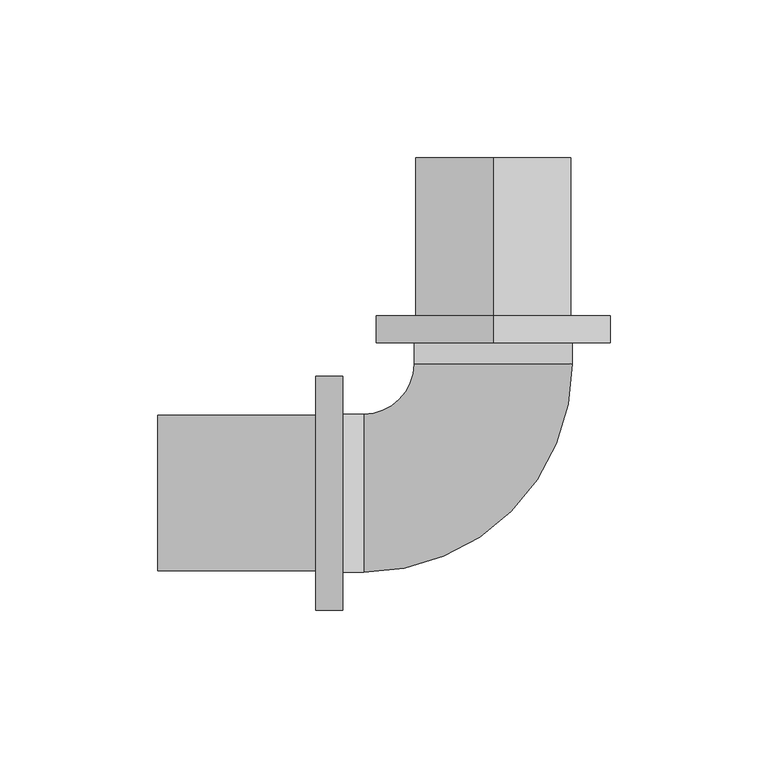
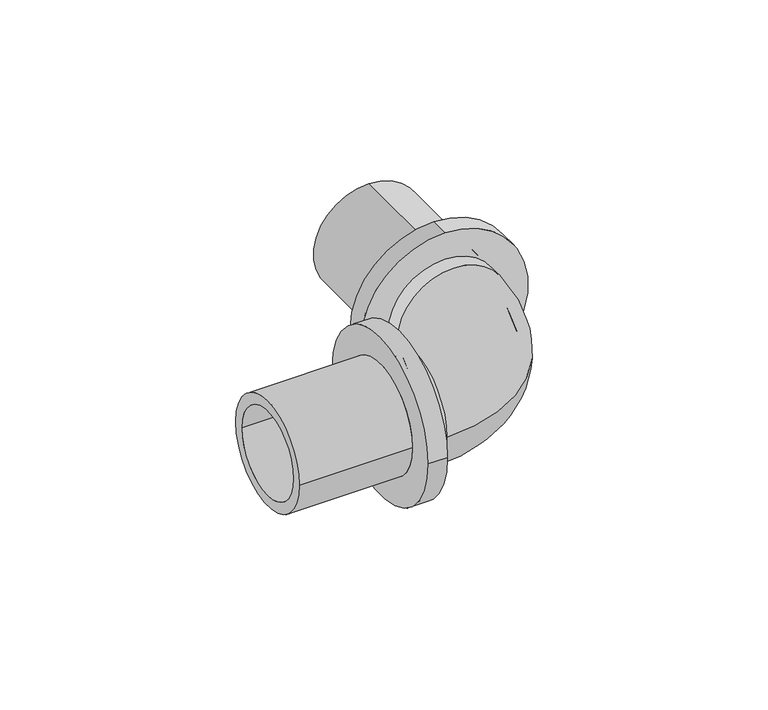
"""IFC4 building model written with IfcOpenShell, lengths in millimetres: pipe fitting geometry, RAUTITAN_Corner_RX+ : RTI RX+ C DE."""

from ifc_helpers import new_model, si_unit, point, frame, origin, place, context, project, spatial, polyline, circle_curve, ellipse_curve, trimmed, source, transform, mapped, element, save
from ifc_brep_helpers import plane_surface, cylinder_surface, revolved_surface, advanced_brep


def pipe_fitting_8b410e5b(model_context):
    return source(origin(), model_context, "Body", "AdvancedBrep", [
        advanced_brep(
        [(-47.7, 25.05, 0.0), (-47.7, -25.05, 0.0), (-47.7, 19.75, 0.0), (-47.7, -19.75, 0.0), (-41.0, -19.75, 0.0), (-41.0, 0.0, -19.75), (-41.0, 19.75, 0.0), (-41.0, 0.0, 19.75), (-41.0, -25.05, 0.0), (-41.0, 25.05, 0.0), (25.05, 47.7, 0.0), (-25.05, 47.7, 0.0), (19.75, 47.7, 0.0), (-19.75, 47.7, 0.0), (-19.75, 41.0, 0.0), (0.0, 41.0, -19.75), (19.75, 41.0, 0.0), (0.0, 41.0, 19.75), (-25.05, 41.0, 0.0), (25.05, 41.0, 0.0)],
        [
            (0, 1, circle_curve(frame((-47.7, 0.0, 0.0), z_axis=(-1.0, 0.0, 0.0), x_axis=(0.0, -1.0, 0.0)), 25.05)),
            (1, 0, circle_curve(frame((-47.7, 0.0, 0.0), z_axis=(-1.0, 0.0, 0.0), x_axis=(0.0, -1.0, 0.0)), 25.05)),
            (2, 3, circle_curve(frame((-47.7, 0.0, 0.0), z_axis=(1.0, 0.0, 0.0), x_axis=(0.0, -1.0, 0.0)), 19.75)),
            (3, 2, circle_curve(frame((-47.7, 0.0, 0.0), z_axis=(1.0, 0.0, 0.0), x_axis=(0.0, -1.0, 0.0)), 19.75)),
            (3, 4),
            (4, 5, circle_curve(frame((-41.0, 0.0, 0.0), z_axis=(1.0, 0.0, 0.0), x_axis=(0.0, -1.0, 0.0)), 19.75)),
            (5, 6, circle_curve(frame((-41.0, 0.0, 0.0), z_axis=(1.0, 0.0, 0.0), x_axis=(0.0, -1.0, 0.0)), 19.75)),
            (6, 2),
            (6, 7, circle_curve(frame((-41.0, 0.0, 0.0), z_axis=(1.0, 0.0, 0.0), x_axis=(0.0, -1.0, 0.0)), 19.75)),
            (7, 4, circle_curve(frame((-41.0, 0.0, 0.0), z_axis=(1.0, 0.0, 0.0), x_axis=(0.0, -1.0, 0.0)), 19.75)),
            (1, 8),
            (8, 9, circle_curve(frame((-41.0, 0.0, 0.0), z_axis=(-1.0, 0.0, 0.0), x_axis=(0.0, -1.0, 0.0)), 25.05)),
            (9, 0),
            (9, 8, circle_curve(frame((-41.0, 0.0, 0.0), z_axis=(-1.0, 0.0, 0.0), x_axis=(0.0, -1.0, 0.0)), 25.05)),
            (10, 11, circle_curve(frame((0.0, 47.7, 0.0), z_axis=(0.0, 1.0, 0.0), x_axis=(-1.0, 0.0, 0.0)), 25.05)),
            (11, 10, circle_curve(frame((0.0, 47.7, 0.0), z_axis=(0.0, 1.0, 0.0), x_axis=(-1.0, 0.0, 0.0)), 25.05)),
            (12, 13, circle_curve(frame((0.0, 47.7, 0.0), z_axis=(0.0, -1.0, 0.0), x_axis=(-1.0, 0.0, 0.0)), 19.75)),
            (13, 12, circle_curve(frame((0.0, 47.7, 0.0), z_axis=(0.0, -1.0, 0.0), x_axis=(-1.0, 0.0, 0.0)), 19.75)),
            (13, 14),
            (14, 15, circle_curve(frame((0.0, 41.0, 0.0), z_axis=(0.0, -1.0, 0.0), x_axis=(-1.0, 0.0, 0.0)), 19.75)),
            (15, 16, circle_curve(frame((0.0, 41.0, 0.0), z_axis=(0.0, -1.0, 0.0), x_axis=(-1.0, 0.0, 0.0)), 19.75)),
            (16, 12),
            (16, 17, circle_curve(frame((0.0, 41.0, 0.0), z_axis=(0.0, -1.0, 0.0), x_axis=(-1.0, 0.0, 0.0)), 19.75)),
            (17, 14, circle_curve(frame((0.0, 41.0, 0.0), z_axis=(0.0, -1.0, 0.0), x_axis=(-1.0, 0.0, 0.0)), 19.75)),
            (11, 18),
            (18, 19, circle_curve(frame((0.0, 41.0, 0.0), z_axis=(0.0, 1.0, 0.0), x_axis=(-1.0, 0.0, 0.0)), 25.05)),
            (19, 10),
            (19, 18, circle_curve(frame((0.0, 41.0, 0.0), z_axis=(0.0, 1.0, 0.0), x_axis=(-1.0, 0.0, 0.0)), 25.05)),
            (14, 6, circle_curve(frame((-41.0, 41.0, 0.0), z_axis=(0.0, 0.0, -1.0), x_axis=(0.0, -1.0, 0.0)), 21.25)),
            (4, 16, circle_curve(frame((-41.0, 41.0, 0.0), z_axis=(0.0, 0.0, 1.0), x_axis=(0.0, -1.0, 0.0)), 60.75)),
            (18, 9, circle_curve(frame((-41.0, 41.0, 0.0), z_axis=(0.0, 0.0, -1.0), x_axis=(0.0, -1.0, 0.0)), 15.95)),
            (8, 19, circle_curve(frame((-41.0, 41.0, 0.0), z_axis=(0.0, 0.0, 1.0), x_axis=(0.0, -1.0, 0.0)), 66.05)),
        ],
        [
            plane_surface(frame((-47.7, 0.0, 0.0), z_axis=(-1.0, 0.0, 0.0), x_axis=(0.0, 0.0, 1.0))),
            revolved_surface(polyline([(-47.7, -19.75, 0.0), (-41.0, -19.75, 0.0)]), (-41.0, 0.0, 0.0), (-1.0, 0.0, 0.0)),
            cylinder_surface(frame((-41.0, 0.0, 0.0), z_axis=(1.0, 0.0, 0.0), x_axis=(0.0, -1.0, 0.0)), 25.05),
            plane_surface(frame((0.0, 47.7, 0.0), z_axis=(0.0, 1.0, 0.0), x_axis=(0.0, 0.0, 1.0))),
            revolved_surface(polyline([(-19.75, 47.7, 0.0), (-19.75, 41.0, 0.0)]), (0.0, 41.0, 0.0), (0.0, 1.0, 0.0)),
            cylinder_surface(frame((0.0, 41.0, 0.0), z_axis=(0.0, -1.0, 0.0), x_axis=(-1.0, 0.0, 0.0)), 25.05),
            revolved_surface(trimmed(ellipse_curve(frame((-41.0, 0.0, 0.0), z_axis=(1.0, 0.0, 0.0), x_axis=(0.0, 1.0, 0.0)), 19.75, 19.75), [point((-41.0, -19.75, 0.0))], [point((-41.0, 19.75, 0.0))], True, "CARTESIAN"), (-41.0, 41.0, 0.0), (0.0, 0.0, 1.0)),
            revolved_surface(trimmed(ellipse_curve(frame((-41.0, 0.0, 0.0), z_axis=(1.0, 0.0, 0.0), x_axis=(0.0, 1.0, 0.0)), 19.75, 19.75), [point((-41.0, 19.75, 0.0))], [point((-41.0, -19.75, 0.0))], True, "CARTESIAN"), (-41.0, 41.0, 0.0), (0.0, 0.0, 1.0)),
            revolved_surface(trimmed(ellipse_curve(frame((-41.0, 0.0, 0.0), z_axis=(-1.0, 0.0, 0.0), x_axis=(0.0, 1.0, 0.0)), 25.05, 25.05), [point((-41.0, -25.05, 0.0))], [point((-41.0, 25.05, 0.0))], True, "CARTESIAN"), (-41.0, 41.0, 0.0), (0.0, 0.0, 1.0)),
            revolved_surface(trimmed(ellipse_curve(frame((-41.0, 0.0, 0.0), z_axis=(-1.0, 0.0, 0.0), x_axis=(0.0, 1.0, 0.0)), 25.05, 25.05), [point((-41.0, 25.05, 0.0))], [point((-41.0, -25.05, 0.0))], True, "CARTESIAN"), (-41.0, 41.0, 0.0), (0.0, 0.0, 1.0)),
        ],
        [
            (0, [[1, 2], [3, 4]]),
            (1, [[-4, 5, 6, 7, 8]]),
            (1, [[-3, -8, 9, 10, -5]]),
            (2, [[-2, 11, 12, 13]]),
            (2, [[-1, -13, 14, -11]]),
            (3, [[15, 16], [17, 18]]),
            (4, [[-18, 19, 20, 21, 22]]),
            (4, [[-17, -22, 23, 24, -19]]),
            (5, [[-16, 25, 26, 27]]),
            (5, [[-15, -27, 28, -25]]),
            (6, [[29, -7, -6, 30, -21, -20]]),
            (7, [[-29, -24, -23, -30, -10, -9]]),
            (8, [[31, -12, 32, -26]]),
            (9, [[-31, -28, -32, -14]]),
        ],
    ),
        advanced_brep(
        [(-56.2, -37.05, 0.0), (-56.2, 37.05, 0.0), (-47.7, 37.05, 0.0), (-47.7, -37.05, 0.0), (-106.2, -24.65, 0.0), (-106.2, 24.65, 0.0), (-56.2, 24.65, 0.0), (-56.2, -24.65, 0.0), (-47.7, -19.75, 0.0), (-47.7, 19.75, 0.0), (-106.2, 19.75, 0.0), (-106.2, -19.75, 0.0)],
        [
            (0, 1, circle_curve(frame((-56.2, 0.0, 0.0), z_axis=(1.0, 0.0, 0.0), x_axis=(0.0, 1.0, 0.0)), 37.05)),
            (1, 2),
            (2, 3, circle_curve(frame((-47.7, 0.0, 0.0), z_axis=(-1.0, 0.0, 0.0), x_axis=(0.0, 1.0, 0.0)), 37.05)),
            (3, 0),
            (4, 5, circle_curve(frame((-106.2, 0.0, 0.0), z_axis=(1.0, 0.0, 0.0), x_axis=(0.0, 1.0, 0.0)), 24.65)),
            (5, 6),
            (6, 7, circle_curve(frame((-56.2, 0.0, 0.0), z_axis=(-1.0, 0.0, 0.0), x_axis=(0.0, 1.0, 0.0)), 24.65)),
            (7, 4),
            (8, 9, circle_curve(frame((-47.7, 0.0, 0.0), z_axis=(1.0, 0.0, 0.0), x_axis=(0.0, 1.0, 0.0)), 19.75)),
            (9, 10),
            (10, 11, circle_curve(frame((-106.2, 0.0, 0.0), z_axis=(-1.0, 0.0, 0.0), x_axis=(0.0, 1.0, 0.0)), 19.75)),
            (11, 8),
            (1, 0, circle_curve(frame((-56.2, 0.0, 0.0), z_axis=(1.0, 0.0, 0.0), x_axis=(0.0, -1.0, 0.0)), 37.05)),
            (3, 2, circle_curve(frame((-47.7, 0.0, 0.0), z_axis=(-1.0, 0.0, 0.0), x_axis=(0.0, -1.0, 0.0)), 37.05)),
            (6, 7, circle_curve(frame((-56.2, 0.0, 0.0), z_axis=(1.0, 0.0, 0.0), x_axis=(0.0, -1.0, 0.0)), 24.65)),
            (5, 4, circle_curve(frame((-106.2, 0.0, 0.0), z_axis=(1.0, 0.0, 0.0), x_axis=(0.0, -1.0, 0.0)), 24.65)),
            (10, 11, circle_curve(frame((-106.2, 0.0, 0.0), z_axis=(1.0, 0.0, 0.0), x_axis=(0.0, -1.0, 0.0)), 19.75)),
            (9, 8, circle_curve(frame((-47.7, 0.0, 0.0), z_axis=(1.0, 0.0, 0.0), x_axis=(0.0, -1.0, 0.0)), 19.75)),
        ],
        [
            cylinder_surface(frame((-47.7, 0.0, 0.0), z_axis=(-1.0, 0.0, 0.0), x_axis=(0.0, 1.0, 0.0)), 37.05),
            cylinder_surface(frame((-47.7, 0.0, 0.0), z_axis=(-1.0, 0.0, 0.0), x_axis=(0.0, 1.0, 0.0)), 24.65),
            revolved_surface(polyline([(-106.2, 19.75, 0.0), (-47.7, 19.75, 0.0)]), (-47.7, 0.0, 0.0), (-1.0, 0.0, 0.0)),
            cylinder_surface(frame((-47.7, 0.0, 0.0), z_axis=(-1.0, 0.0, 0.0), x_axis=(0.0, -1.0, 0.0)), 37.05),
            plane_surface(frame((-56.2, 0.0, 0.0), z_axis=(-1.0, 0.0, 0.0), x_axis=(0.0, -1.0, 0.0))),
            cylinder_surface(frame((-47.7, 0.0, 0.0), z_axis=(-1.0, 0.0, 0.0), x_axis=(0.0, -1.0, 0.0)), 24.65),
            plane_surface(frame((-106.2, 0.0, 0.0), z_axis=(-1.0, 0.0, 0.0), x_axis=(0.0, -1.0, 0.0))),
            revolved_surface(polyline([(-106.2, -19.75, 0.0), (-47.7, -19.75, 0.0)]), (-47.7, 0.0, 0.0), (-1.0, 0.0, 0.0)),
            plane_surface(frame((-47.7, 0.0, 0.0), z_axis=(1.0, 0.0, 0.0), x_axis=(0.0, -1.0, 0.0))),
        ],
        [
            (0, [[1, 2, 3, 4]]),
            (1, [[5, 6, 7, 8]]),
            (2, [[9, 10, 11, 12]]),
            (3, [[13, -4, 14, -2]]),
            (4, [[-13, -1], [15, -7]]),
            (5, [[16, -8, -15, -6]]),
            (6, [[-16, -5], [17, -11]]),
            (7, [[18, -12, -17, -10]]),
            (8, [[-14, -3], [-18, -9]]),
        ],
    ),
        advanced_brep(
        [(0.0, 56.2, 37.4749044), (0.0, 56.2, -36.6250956), (0.0, 47.7, -36.6250956), (0.0, 47.7, 37.4749044), (0.0, 106.2, 25.0749044), (0.0, 106.2, -24.2250956), (0.0, 56.2, -24.2250956), (0.0, 56.2, 25.0749044), (0.0, 47.7, 20.1749044), (0.0, 47.7, -19.3250956), (0.0, 106.2, -19.3250956), (0.0, 106.2, 20.1749044)],
        [
            (0, 1, circle_curve(frame((0.0, 56.2, 0.4249044), z_axis=(0.0, -1.0, 0.0), x_axis=(0.0, 0.0, -1.0)), 37.05)),
            (1, 2),
            (2, 3, circle_curve(frame((0.0, 47.7, 0.4249044), z_axis=(0.0, 1.0, 0.0), x_axis=(0.0, 0.0, -1.0)), 37.05)),
            (3, 0),
            (4, 5, circle_curve(frame((0.0, 106.2, 0.4249044), z_axis=(0.0, -1.0, 0.0), x_axis=(0.0, 0.0, -1.0)), 24.65)),
            (5, 6),
            (6, 7, circle_curve(frame((0.0, 56.2, 0.4249044), z_axis=(0.0, 1.0, 0.0), x_axis=(0.0, 0.0, -1.0)), 24.65)),
            (7, 4),
            (8, 9, circle_curve(frame((0.0, 47.7, 0.4249044), z_axis=(0.0, -1.0, 0.0), x_axis=(0.0, 0.0, -1.0)), 19.75)),
            (9, 10),
            (10, 11, circle_curve(frame((0.0, 106.2, 0.4249044), z_axis=(0.0, 1.0, 0.0), x_axis=(0.0, 0.0, -1.0)), 19.75)),
            (11, 8),
            (1, 0, circle_curve(frame((0.0, 56.2, 0.4249044), z_axis=(0.0, -1.0, 0.0), x_axis=(0.0, 0.0, 1.0)), 37.05)),
            (3, 2, circle_curve(frame((0.0, 47.7, 0.4249044), z_axis=(0.0, 1.0, 0.0), x_axis=(0.0, 0.0, 1.0)), 37.05)),
            (6, 7, circle_curve(frame((0.0, 56.2, 0.4249044), z_axis=(0.0, -1.0, 0.0), x_axis=(0.0, 0.0, 1.0)), 24.65)),
            (5, 4, circle_curve(frame((0.0, 106.2, 0.4249044), z_axis=(0.0, -1.0, 0.0), x_axis=(0.0, 0.0, 1.0)), 24.65)),
            (10, 11, circle_curve(frame((0.0, 106.2, 0.4249044), z_axis=(0.0, -1.0, 0.0), x_axis=(0.0, 0.0, 1.0)), 19.75)),
            (9, 8, circle_curve(frame((0.0, 47.7, 0.4249044), z_axis=(0.0, -1.0, 0.0), x_axis=(0.0, 0.0, 1.0)), 19.75)),
        ],
        [
            cylinder_surface(frame((0.0, 47.7, 0.4249044), z_axis=(0.0, 1.0, 0.0), x_axis=(0.0, 0.0, -1.0)), 37.05),
            cylinder_surface(frame((0.0, 47.7, 0.4249044), z_axis=(0.0, 1.0, 0.0), x_axis=(0.0, 0.0, -1.0)), 24.65),
            revolved_surface(polyline([(0.0, 106.2, -19.3250956), (0.0, 47.7, -19.3250956)]), (0.0, 47.7, 0.4249044), (0.0, 1.0, 0.0)),
            cylinder_surface(frame((0.0, 47.7, 0.4249044), z_axis=(0.0, 1.0, 0.0), x_axis=(0.0, 0.0, 1.0)), 37.05),
            plane_surface(frame((0.0, 56.2, 0.4249044), z_axis=(0.0, 1.0, 0.0), x_axis=(0.0, 0.0, 1.0))),
            cylinder_surface(frame((0.0, 47.7, 0.4249044), z_axis=(0.0, 1.0, 0.0), x_axis=(0.0, 0.0, 1.0)), 24.65),
            plane_surface(frame((0.0, 106.2, 0.4249044), z_axis=(0.0, 1.0, 0.0), x_axis=(0.0, 0.0, 1.0))),
            revolved_surface(polyline([(0.0, 106.2, 20.1749044), (0.0, 47.7, 20.1749044)]), (0.0, 47.7, 0.4249044), (0.0, 1.0, 0.0)),
            plane_surface(frame((0.0, 47.7, 0.4249044), z_axis=(0.0, -1.0, 0.0), x_axis=(0.0, 0.0, 1.0))),
        ],
        [
            (0, [[1, 2, 3, 4]]),
            (1, [[5, 6, 7, 8]]),
            (2, [[9, 10, 11, 12]]),
            (3, [[13, -4, 14, -2]]),
            (4, [[-13, -1], [15, -7]]),
            (5, [[16, -8, -15, -6]]),
            (6, [[-16, -5], [17, -11]]),
            (7, [[18, -12, -17, -10]]),
            (8, [[-14, -3], [-18, -9]]),
        ],
    ),
    ])


if __name__ == "__main__":
    model = new_model("IFC4")
    model_context = context("Model", 3, world=origin())
    ifc_project = project(units=[si_unit("LENGTHUNIT", "METRE", prefix="MILLI")], contexts=[model_context])
    site = spatial("IfcSite", under=ifc_project)
    building = spatial("IfcBuilding", under=site)
    placement = place(None, origin())
    pipe_fitting_shape = pipe_fitting_8b410e5b(model_context)
    element("IfcPipeFitting", 1, ObjectType="RAUTITAN_Corner_RX+ : RTI RX+ C DE", at=placement, inside=building, context=model_context, shape_type="MappedRepresentation", body=[
        mapped(pipe_fitting_shape, transform((0.0, 0.0, 0.0), x_axis=(1.0, 0.0, 0.0), y_axis=(0.0, 1.0, 0.0), z_axis=(0.0, 0.0, 1.0))),
    ])
    save(model, "model.ifc")
